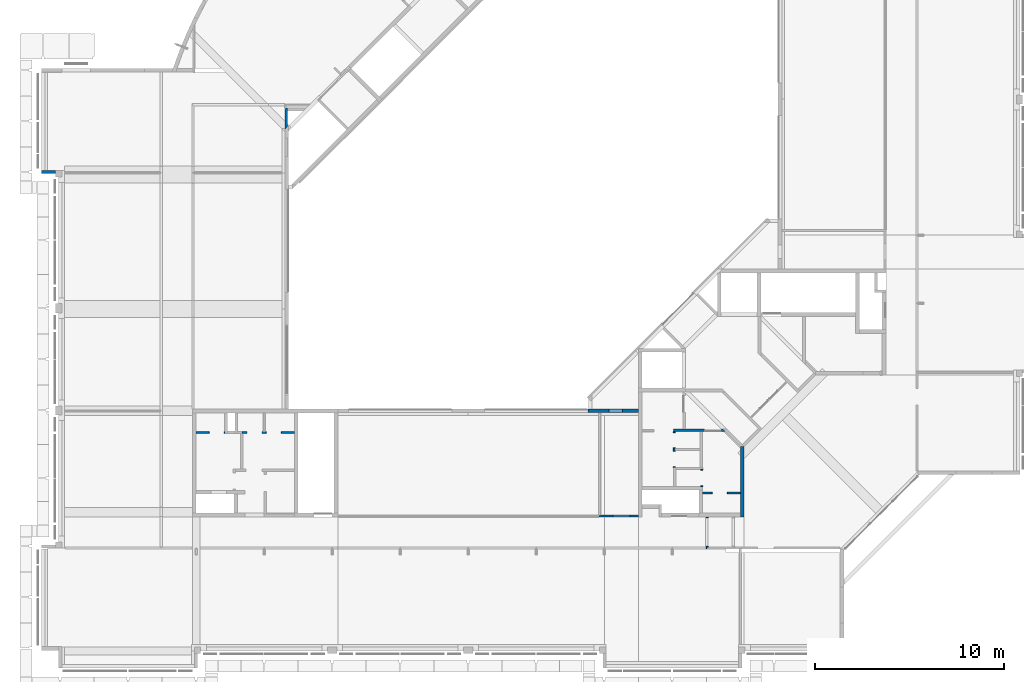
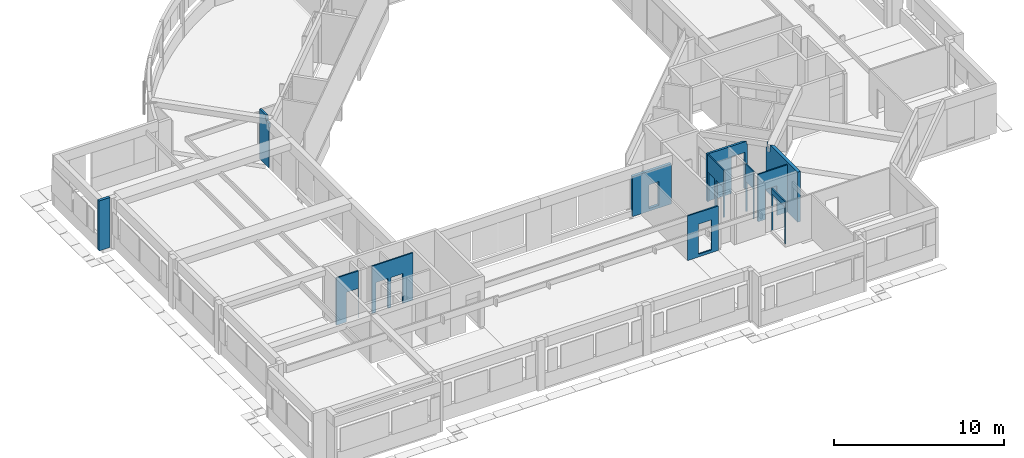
# One storey, part 21 of 26: 12 walls.
"""IFC4X3_ADD2 building model written with IfcOpenShell, lengths in millimetres."""

from ifc_helpers import new_model, si_unit, direction, frame, origin_with_axes, place, context, subcontext, project, spatial, faceted_brep, polygons, source, transform, mapped, type_object, type_shapes, element, save


model = new_model("IFC4X3_ADD2")

# Units and contexts
model_context = context("Model", 3, precision=1e-05, world=origin_with_axes(), true_north=direction((0.0, 1.0)))
body_context = subcontext(model_context, "Body", "Model", "MODEL_VIEW")
ifc_project = project(units=[si_unit("LENGTHUNIT", "METRE", prefix="MILLI"), si_unit("AREAUNIT", "SQUARE_METRE"), si_unit("VOLUMEUNIT", "CUBIC_METRE"), si_unit("PLANEANGLEUNIT", "RADIAN"), si_unit("TIMEUNIT", "SECOND"), si_unit("MASSUNIT", "GRAM")], contexts=[model_context])

# Site, building, storey
site_placement = place(None, origin_with_axes())
site = spatial("IfcSite", under=ifc_project, at=site_placement, Name="Site", CompositionType="ELEMENT")
building_placement = place(site_placement, origin_with_axes())
building = spatial("IfcBuilding", under=site, at=building_placement, Name="IFC Building Story")
storey_placement = place(building_placement, frame((0.0, 0.0, 7200.0), z_axis=(0.0, 0.0, 1.0), x_axis=(1.0, 0.0, 0.0)))
storey = spatial("IfcBuildingStorey", under=building, at=storey_placement, Name="020", Elevation=7200.0)

# Walls
wall_type_1 = type_object("IfcWallType", Name="Basic Wall_BB_10.01.41#21_Gipskartonwand_EI60_43dB_MS100 _ 25.50.25_ 100 mm43", PredefinedType="NOTDEFINED")
shared_shape_1 = source(origin_with_axes(), body_context, "Body", "Brep", [
    faceted_brep([(0.0, 37.5000000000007, 0.0), (0.0, 37.5000000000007, 3200.0), (0.0, 50.0, 3200.0), (0.0, 50.0, 0.0), (2100.0, 37.5000000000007, 3200.0), (2100.0, 50.0, 3200.0), (2100.0, 37.5000000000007, 0.0), (2100.0, 50.0, 0.0), (450.000000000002, 37.5000000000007, 2359.999999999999), (450.000000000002, 37.5000000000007, 195.0), (450.000000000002, 50.0, 195.0), (450.000000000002, 50.0, 2359.999999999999), (1340.000000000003, 37.5000000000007, 195.0), (1340.000000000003, 50.0, 195.0), (1340.000000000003, 37.5000000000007, 2359.999999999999), (1340.000000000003, 50.0, 2359.999999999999)], [[[0, 1, 2, 3]], [[1, 4, 5, 2]], [[4, 6, 7, 5]], [[6, 0, 3, 7]], [[8, 9, 10, 11]], [[9, 12, 13, 10]], [[12, 14, 15, 13]], [[14, 8, 11, 15]], [[9, 8, 14, 12], [1, 0, 6, 4]], [[15, 11, 10, 13], [7, 3, 2, 5]]], outer=[[True], [True], [True], [True], [True], [True], [True], [True], [False, True], [False, True]]),
    faceted_brep([(0.0, 24.9999999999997, 0.0), (0.0, 24.9999999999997, 3200.0), (0.0, 37.5000000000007, 3200.0), (0.0, 37.5000000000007, 0.0), (2087.50000000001, 24.9999999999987, 3200.0), (2087.50000000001, 37.4999999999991, 3200.0), (2087.50000000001, 24.9999999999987, 0.0), (2087.50000000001, 37.4999999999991, 0.0), (450.0000000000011, 24.9999999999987, 2359.999999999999), (450.0000000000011, 24.9999999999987, 195.0), (450.000000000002, 37.5000000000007, 195.0), (450.000000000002, 37.5000000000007, 2359.999999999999), (1340.000000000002, 24.9999999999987, 195.0), (1340.000000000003, 37.5000000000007, 195.0), (1340.000000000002, 24.9999999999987, 2359.999999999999), (1340.000000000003, 37.5000000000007, 2359.999999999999)], [[[0, 1, 2, 3]], [[1, 4, 5, 2]], [[4, 6, 7, 5]], [[6, 0, 3, 7]], [[8, 9, 10, 11]], [[9, 12, 13, 10]], [[12, 14, 15, 13]], [[14, 8, 11, 15]], [[9, 8, 14, 12], [1, 0, 6, 4]], [[15, 11, 10, 13], [7, 3, 2, 5]]], outer=[[True], [True], [True], [True], [True], [True], [True], [True], [False, True], [False, True]]),
    faceted_brep([(0.0, -24.9999999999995, 0.0), (0.0, -24.9999999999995, 3200.0), (0.0, 24.9999999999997, 3200.0), (0.0, 24.9999999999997, 0.0), (2075.0, -24.9999999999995, 3200.0), (2075.0, 25.0, 3200.0), (2075.0, -24.9999999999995, 0.0), (2075.0, 25.0, 0.0), (449.999999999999, -24.9999999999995, 2359.999999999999), (449.999999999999, -24.9999999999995, 195.0), (450.0000000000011, 24.9999999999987, 195.0), (450.0000000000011, 24.9999999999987, 2359.999999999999), (1340.0, -24.9999999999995, 195.0), (1340.000000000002, 24.9999999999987, 195.0), (1339.999999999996, -24.9999999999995, 2359.999999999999), (1340.000000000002, 24.9999999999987, 2359.999999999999)], [[[0, 1, 2, 3]], [[1, 4, 5, 2]], [[4, 6, 7, 5]], [[6, 0, 3, 7]], [[8, 9, 10, 11]], [[9, 12, 13, 10]], [[12, 14, 15, 13]], [[14, 8, 11, 15]], [[9, 8, 14, 12], [1, 0, 6, 4]], [[15, 11, 10, 13], [7, 3, 2, 5]]], outer=[[True], [True], [True], [True], [True], [True], [True], [True], [False, True], [False, True]]),
    faceted_brep([(0.0, -37.5000000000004, 0.0), (0.0, -37.5000000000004, 3200.0), (0.0, -24.9999999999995, 3200.0), (0.0, -24.9999999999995, 0.0), (2025.0, -37.5000000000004, 3200.0), (2025.0, -25.0, 3200.0), (2025.0, -37.5000000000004, 0.0), (2025.0, -25.0, 0.0), (450.000000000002, -37.5000000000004, 2359.999999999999), (450.000000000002, -37.5000000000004, 195.0), (449.999999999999, -24.9999999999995, 195.0), (449.999999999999, -24.9999999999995, 2359.999999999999), (1340.000000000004, -37.5000000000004, 195.0), (1340.0, -24.9999999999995, 195.0), (1340.000000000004, -37.5000000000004, 2359.999999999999), (1339.999999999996, -24.9999999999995, 2359.999999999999)], [[[0, 1, 2, 3]], [[1, 4, 5, 2]], [[4, 6, 7, 5]], [[6, 0, 3, 7]], [[8, 9, 10, 11]], [[9, 12, 13, 10]], [[12, 14, 15, 13]], [[14, 8, 11, 15]], [[9, 8, 14, 12], [1, 0, 6, 4]], [[15, 11, 10, 13], [7, 3, 2, 5]]], outer=[[True], [True], [True], [True], [True], [True], [True], [True], [False, True], [False, True]]),
    faceted_brep([(0.0, -50.0, 0.0), (0.0, -50.0, 3200.0), (0.0, -37.5000000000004, 3200.0), (0.0, -37.5000000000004, 0.0), (2012.50000000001, -50.0000000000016, 3200.0), (2012.50000000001, -37.5000000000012, 3200.0), (2012.50000000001, -50.0000000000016, 0.0), (2012.50000000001, -37.5000000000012, 0.0), (450.0000000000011, -50.0000000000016, 2359.999999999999), (450.0000000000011, -50.0000000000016, 195.0), (450.000000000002, -37.5000000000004, 195.0), (450.000000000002, -37.5000000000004, 2359.999999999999), (1340.000000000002, -50.0000000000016, 195.0), (1340.000000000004, -37.5000000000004, 195.0), (1340.000000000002, -50.0000000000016, 2359.999999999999), (1340.000000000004, -37.5000000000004, 2359.999999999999)], [[[0, 1, 2, 3]], [[1, 4, 5, 2]], [[4, 6, 7, 5]], [[6, 0, 3, 7]], [[8, 9, 10, 11]], [[9, 12, 13, 10]], [[12, 14, 15, 13]], [[14, 8, 11, 15]], [[9, 8, 14, 12], [1, 0, 6, 4]], [[15, 11, 10, 13], [7, 3, 2, 5]]], outer=[[True], [True], [True], [True], [True], [True], [True], [True], [False, True], [False, True]]),
])
type_shapes(wall_type_1, [shared_shape_1])
wall_1_placement = place(storey_placement, frame((-20100.0, 7035.13019419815, -200.0), z_axis=(0.0, 0.0, 1.0), x_axis=(-1.0, 0.0, 0.0)))
element("IfcWall", 1, at=wall_1_placement, inside=storey, type_object=wall_type_1, Name="Basic Wall:BB_10.01.41#21_Gipskartonwand_EI60_43dB_MS100 / 25.50.25, 100 mm", ObjectType="Basic Wall:BB_10.01.41#21_Gipskartonwand_EI60_43dB_MS100 / 25.50.25, 100 mm", PredefinedType="PARTITIONING", context=body_context, shape_type="MappedRepresentation", body=[
    mapped(shared_shape_1, transform((0.0, 0.0, 0.0))),
])
wall_type_2 = type_object("IfcWallType", Name="Basic Wall_BB_10.01.41#21_Gipskartonwand_EI60_43dB_MS100 _ 25.50.25_ 100 mm65", PredefinedType="NOTDEFINED")
shared_shape_2 = source(origin_with_axes(), body_context, "Body", "Tessellation", [
    polygons([(12.5000000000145, 46.2499999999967, 2650.0), (12.5000000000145, 37.5000000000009, 2650.0), (41.6666666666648, 37.5000000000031, 2650.0), (1685.0000000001, 50.0, -1.08286712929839e-12), (1685.0000000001, 37.4999999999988, -1.08286712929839e-12), (1654.99999999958, 37.4999999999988, -1.08286712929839e-12), (1654.99999999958, 50.0, -1.08286712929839e-12), (1654.99999999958, 50.0, 2650.0), (1654.99999999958, 37.4999999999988, 2650.0), (134.999999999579, 37.500000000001, 1.08286712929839e-12), (134.999999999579, 50.0, -1.08286712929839e-12), (134.999999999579, 50.0, 2650.0), (134.999999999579, 37.500000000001, 2650.0), (12.5000000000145, 50.0, -1.08286712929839e-12), (12.5000000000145, 37.5000000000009, -1.08286712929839e-12), (1685.0000000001, 50.0, 2650.0), (1685.0000000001, 50.0, 3010.0), (1685.0000000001, 37.4999999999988, 3010.0), (1685.0000000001, 37.500000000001, 2650.0), (41.6666666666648, 37.5000000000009, 3010.0), (12.5000000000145, 50.0, 2650.0), (0.0, 50.0, 2650.0), (0.0, 50.0, 3010.0)], [[[1, 2, 3]], [[4, 5, 6, 7]], [[8, 7, 6, 9]], [[10, 11, 12, 13]], [[14, 11, 10, 15]], [[16, 17, 18]], [[16, 18, 19]], [[19, 5, 4]], [[19, 4, 16]], [[9, 6, 5]], [[9, 5, 19]], [[9, 19, 18]], [[18, 20, 13]], [[18, 13, 9]], [[20, 3, 13]], [[3, 2, 15]], [[15, 10, 13]], [[15, 13, 3]], [[1, 21, 14]], [[14, 15, 2]], [[14, 2, 1]], [[22, 21, 1]], [[17, 23, 20, 18]], [[1, 3, 20]], [[1, 20, 23]], [[23, 22, 1]], [[9, 13, 12, 8]], [[21, 22, 23]], [[16, 4, 7]], [[16, 7, 8]], [[12, 11, 14]], [[12, 14, 21]], [[12, 21, 23]], [[23, 17, 8]], [[23, 8, 12]], [[17, 16, 8]]]),
    polygons([(25.0000000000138, 37.5000000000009, 2650.0), (25.0000000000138, 25.0000000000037, 2650.0), (83.3333333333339, 25.0000000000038, 2650.0), (41.6666666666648, 37.5000000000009, 2650.0), (1685.0000000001, 37.4999999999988, -1.08286712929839e-12), (1685.0000000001, 25.0000000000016, -1.08286712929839e-12), (1654.99999999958, 25.0000000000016, -1.08286712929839e-12), (1654.99999999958, 37.4999999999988, -1.08286712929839e-12), (1654.99999999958, 25.0000000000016, 2650.0), (1654.99999999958, 37.4999999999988, 2650.0), (134.999999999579, 25.0000000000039, -1.08286712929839e-12), (134.999999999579, 37.500000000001, -1.08286712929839e-12), (134.999999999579, 37.500000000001, 2650.0), (134.999999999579, 25.0000000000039, 2650.0), (25.0000000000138, 37.5000000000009, -1.08286712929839e-12), (25.0000000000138, 25.0000000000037, -1.08286712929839e-12), (1685.0000000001, 37.500000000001, 2650.0), (1685.0000000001, 37.4999999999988, 3010.0), (1685.0000000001, 25.0000000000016, 3010.0), (1685.0000000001, 25.0000000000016, 2650.0), (41.6666666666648, 37.5000000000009, 3010.0), (83.3333333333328, 25.0000000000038, 3010.0)], [[[1, 2, 3, 4]], [[5, 6, 7, 8]], [[8, 7, 9, 10]], [[11, 12, 13, 14]], [[15, 12, 11, 16]], [[17, 18, 19]], [[17, 19, 20]], [[20, 6, 5]], [[20, 5, 17]], [[17, 5, 8]], [[17, 8, 10]], [[13, 4, 21]], [[21, 18, 10]], [[21, 10, 13]], [[18, 17, 10]], [[4, 13, 12]], [[4, 12, 15]], [[15, 1, 4]], [[9, 7, 6]], [[9, 6, 20]], [[9, 20, 19]], [[19, 22, 14]], [[19, 14, 9]], [[22, 3, 14]], [[3, 2, 16]], [[3, 16, 11]], [[11, 14, 3]], [[15, 16, 2, 1]], [[9, 14, 13, 10]], [[18, 21, 22, 19]], [[21, 4, 3, 22]]]),
    polygons([(75.0000000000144, 25.0000000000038, 2650.0), (75.0000000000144, -25.0, 2650.0), (100.000000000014, -25.0, 2650.0), (100.000000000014, 19.9999999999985, 2650.0), (83.3333333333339, 25.0000000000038, 2650.0), (1685.0000000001, 25.0000000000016, -1.08286712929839e-12), (1685.0000000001, -25.0, -1.08286712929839e-12), (1654.99999999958, -25.0, -1.08286712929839e-12), (1654.99999999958, 25.0000000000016, -1.08286712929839e-12), (1654.99999999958, -25.0, 2650.0), (1654.99999999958, 25.0000000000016, 2650.0), (134.999999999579, -24.9999999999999, -1.08286712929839e-12), (134.999999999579, 25.0000000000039, -1.08286712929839e-12), (134.999999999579, 25.0000000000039, 2650.0), (134.999999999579, -24.9999999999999, 2650.0), (75.0000000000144, 25.0000000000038, -1.08286712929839e-12), (75.0000000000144, -25.0, -1.08286712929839e-12), (1685.0000000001, 25.0000000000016, 2650.0), (1685.0000000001, 25.0000000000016, 3010.0), (1685.0000000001, -25.0, 3010.0), (1685.0000000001, -25.0, 2650.0), (83.3333333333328, 25.0000000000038, 3010.0), (100.000000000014, -25.0, 3010.0), (100.000000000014, 19.9999999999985, 3010.0)], [[[1, 2, 3]], [[1, 3, 4]], [[1, 4, 5]], [[6, 7, 8, 9]], [[9, 8, 10, 11]], [[12, 13, 14, 15]], [[16, 13, 12, 17]], [[18, 19, 20]], [[18, 20, 21]], [[21, 7, 6]], [[21, 6, 18]], [[18, 6, 9]], [[18, 9, 11]], [[14, 5, 22]], [[22, 19, 11]], [[22, 11, 14]], [[19, 18, 11]], [[5, 14, 13]], [[5, 13, 16]], [[16, 1, 5]], [[10, 8, 7]], [[10, 7, 21]], [[10, 21, 20]], [[20, 23, 15]], [[20, 15, 10]], [[23, 3, 15]], [[3, 2, 17]], [[17, 12, 15]], [[17, 15, 3]], [[16, 17, 2, 1]], [[10, 15, 14, 11]], [[23, 24, 4, 3]], [[24, 23, 20]], [[24, 20, 19]], [[19, 22, 24]], [[22, 5, 4, 24]]]),
    polygons([(87.5000000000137, -25.0, 2650.0), (87.5000000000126, -37.4999999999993, 2650.0), (100.000000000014, -37.4999999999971, 2650.0), (100.000000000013, -25.0, 2650.0), (1685.0000000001, -25.0, -1.08286712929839e-12), (1685.0000000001, -37.5000000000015, -1.08286712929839e-12), (1654.99999999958, -37.5000000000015, -1.08286712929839e-12), (1654.99999999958, -25.0, -1.08286712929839e-12), (1654.99999999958, -37.5000000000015, 2650.0), (1654.99999999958, -25.0, 2650.0), (134.999999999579, -37.4999999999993, -1.08286712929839e-12), (134.999999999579, -24.9999999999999, -1.08286712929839e-12), (134.999999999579, -24.9999999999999, 2650.0), (134.999999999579, -37.4999999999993, 2650.0), (87.5000000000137, -25.0, -1.08286712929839e-12), (87.5000000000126, -37.4999999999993, -1.08286712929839e-12), (1685.0000000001, -25.0, 2650.0), (1685.0000000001, -25.0, 3010.0), (1685.0000000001, -37.5000000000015, 3010.0), (1685.0000000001, -37.4999999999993, 2650.0), (100.000000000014, -25.0, 3010.0), (100.000000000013, -37.4999999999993, 3010.0)], [[[1, 2, 3, 4]], [[5, 6, 7, 8]], [[8, 7, 9, 10]], [[11, 12, 13, 14]], [[15, 12, 11, 16]], [[17, 18, 19]], [[17, 19, 20]], [[20, 6, 5]], [[20, 5, 17]], [[17, 5, 8]], [[17, 8, 10]], [[13, 4, 21]], [[21, 18, 10]], [[21, 10, 13]], [[18, 17, 10]], [[4, 13, 12]], [[4, 12, 15]], [[15, 1, 4]], [[9, 7, 6]], [[9, 6, 20]], [[9, 20, 19]], [[19, 22, 14]], [[19, 14, 9]], [[22, 3, 14]], [[3, 2, 16]], [[16, 11, 14]], [[16, 14, 3]], [[15, 16, 2, 1]], [[9, 14, 13, 10]], [[21, 4, 3, 22]], [[18, 21, 22, 19]]]),
    polygons([(134.999999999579, -37.4999999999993, 2650.0), (134.999999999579, -37.4999999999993, -1.08286712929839e-12), (100.000000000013, -37.4999999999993, -1.08286712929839e-12), (100.000000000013, -37.4999999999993, 2650.0), (100.000000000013, -37.4999999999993, 3010.0), (1685.0000000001, -37.5000000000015, 3010.0), (1685.0000000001, -37.4999999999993, 2650.0), (1685.0000000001, -37.5000000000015, -1.08286712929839e-12), (1654.99999999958, -37.5000000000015, -1.08286712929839e-12), (1654.99999999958, -37.5000000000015, 2650.0), (1685.0000000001, -49.9999999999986, -1.08286712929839e-12), (1654.99999999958, -49.9999999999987, -1.08286712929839e-12), (1654.99999999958, -49.9999999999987, 2650.0), (134.999999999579, -49.9999999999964, 2650.0), (134.999999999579, -49.9999999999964, -1.08286712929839e-12), (100.000000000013, -49.9999999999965, -1.08286712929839e-12), (100.000000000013, -49.9999999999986, 2650.0), (100.000000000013, -49.9999999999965, 3010.0), (1685.0000000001, -49.9999999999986, 3010.0), (1685.0000000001, -49.9999999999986, 2650.0)], [[[1, 2, 3]], [[1, 3, 4]], [[7, 8, 9]], [[7, 9, 10]], [[1, 4, 5]], [[5, 6, 10]], [[5, 10, 1]], [[6, 7, 10]], [[9, 8, 11, 12]], [[10, 9, 12, 13]], [[2, 1, 14, 15]], [[3, 2, 15, 16]], [[4, 3, 16]], [[4, 16, 17]], [[17, 18, 5]], [[17, 5, 4]], [[7, 6, 19]], [[7, 19, 20]], [[20, 11, 8]], [[20, 8, 7]], [[17, 16, 15]], [[17, 15, 14]], [[13, 12, 11]], [[13, 11, 20]], [[13, 20, 19]], [[19, 18, 14]], [[19, 14, 13]], [[18, 17, 14]], [[1, 10, 13, 14]], [[6, 5, 18, 19]]]),
])
type_shapes(wall_type_2, [shared_shape_2])
wall_2_placement = place(storey_placement, frame((-16450.0, 5300.0, -10.0), z_axis=(0.0, 0.0, 1.0), x_axis=(0.0, 1.0, 0.0)))
element("IfcWall", 2, at=wall_2_placement, inside=storey, type_object=wall_type_2, Name="Basic Wall:BB_10.01.41#21_Gipskartonwand_EI60_43dB_MS100 / 25.50.25, 100 mm", ObjectType="Basic Wall:BB_10.01.41#21_Gipskartonwand_EI60_43dB_MS100 / 25.50.25, 100 mm", PredefinedType="PARTITIONING", context=body_context, shape_type="MappedRepresentation", body=[
    mapped(shared_shape_2, transform((0.0, 0.0, 0.0))),
])
wall_3_placement = place(storey_placement, frame((0.0, 0.0, -7200.0), z_axis=(0.0, 0.0, 1.0), x_axis=(1.0, 0.0, 0.0)))
element("IfcWall", 3, at=wall_3_placement, inside=storey, Name="Basic Wall:BB_XX_Wand uit beton, 170 mm", ObjectType="Basic Wall:BB_XX_Wand uit beton, 170 mm", PredefinedType="SOLIDWALL", context=body_context, shape_type="Tessellation", body=[
    polygons([(-50945.0, 25325.0, 6999.999999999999), (-51695.00000000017, 25325.0, 6999.999999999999), (-51695.00000000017, 25325.0, 10600.0), (-51365.00000000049, 25325.0, 10600.0), (-50945.0, 25325.0, 10600.0), (-50945.0, 25155.0, 6999.999999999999), (-50945.0, 25155.0, 10600.0), (-51365.00000000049, 25155.0, 10600.0), (-51695.00000000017, 25155.0, 10600.0), (-51695.00000000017, 25155.0, 6999.999999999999)], [[[4, 5, 1]], [[4, 1, 2]], [[2, 3, 4]], [[8, 9, 10]], [[10, 6, 7]], [[10, 7, 8]], [[2, 1, 6, 10]], [[3, 2, 10, 9]], [[1, 5, 7, 6]], [[4, 3, 9, 8]], [[5, 4, 8, 7]]]),
])
wall_4_placement = place(storey_placement, frame((0.0, 0.0, -7200.0), z_axis=(0.0, 0.0, 1.0), x_axis=(1.0, 0.0, 0.0)))
element("IfcWall", 4, at=wall_4_placement, inside=storey, Name="Basic Wall:BB_XX_Wand uit metselwerk, 140 mm", ObjectType="Basic Wall:BB_XX_Wand uit metselwerk, 140 mm", PredefinedType="SOLIDWALL", context=body_context, shape_type="Tessellation", body=[
    polygons([(-38655.0, 28624.00000000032, 6999.999999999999), (-38655.0, 28624.00000000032, 10600.0), (-38655.0, 28484.00000000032, 10600.0), (-38655.0, 27797.81751435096, 10600.0), (-38655.0, 27797.81751435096, 10200.0), (-38655.0, 27550.00000000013, 10200.0), (-38655.0, 27550.00000000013, 9880.0), (-38655.0, 27640.83694395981, 9880.0), (-38655.0, 27640.8369439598, 6999.999999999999), (-38655.0, 28484.00000000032, 7000.0), (-38795.0, 28624.00000000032, 10600.0), (-38795.0, 28624.00000000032, 6999.999999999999), (-38795.0, 27500.8369439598, 6999.999999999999), (-38795.0, 27500.8369439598, 9880.0), (-38795.0, 27550.00000000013, 9880.0), (-38795.0, 27550.00000000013, 10200.0), (-38795.0, 27937.81751435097, 10200.0), (-38795.0, 27937.81751435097, 10600.0), (-38745.83694395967, 27550.00000000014, 9880.0)], [[[5, 6, 7]], [[8, 9, 10]], [[8, 10, 3]], [[8, 3, 5]], [[5, 7, 8]], [[3, 4, 5]], [[10, 1, 2]], [[10, 2, 3]], [[17, 18, 11]], [[11, 15, 17]], [[15, 16, 17]], [[11, 12, 13]], [[11, 13, 15]], [[13, 14, 15]], [[10, 9, 13]], [[10, 13, 12]], [[12, 1, 10]], [[3, 2, 11]], [[11, 18, 4]], [[11, 4, 3]], [[2, 1, 12, 11]], [[5, 17, 16, 6]], [[17, 5, 4, 18]], [[8, 7, 19]], [[19, 14, 13]], [[13, 9, 8]], [[13, 8, 19]], [[19, 7, 6]], [[19, 6, 16]], [[16, 15, 19]], [[19, 15, 14]]]),
])
wall_5_placement = place(storey_placement, frame((0.0, 0.0, -7200.0), z_axis=(0.0, 0.0, 1.0), x_axis=(1.0, 0.0, 0.0)))
element("IfcWall", 5, at=wall_5_placement, inside=storey, Name="Basic Wall:BB_XX_Wand uit metselwerk, 140 mm", ObjectType="Basic Wall:BB_XX_Wand uit metselwerk, 140 mm", PredefinedType="SOLIDWALL", context=body_context, shape_type="Tessellation", body=[
    polygons([(-18240.0, 11510.0, 10520.0), (-18240.0, 11510.0, 7120.0), (-18150.0, 11510.0, 7120.0), (-16840.00000000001, 11510.0, 7120.0), (-16700.00000000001, 11510.0, 7120.0), (-16602.0, 11510.0, 7120.0), (-16602.0, 11510.0, 9750.000000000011), (-15692.00000000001, 11510.0, 9750.000000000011), (-15692.00000000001, 11510.0, 7120.0), (-15492.98989873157, 11510.0, 7120.0), (-15492.98989873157, 11510.0, 10320.0), (-15577.84271247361, 11510.0, 10320.0), (-15577.84271247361, 11510.0, 10520.0), (-16700.00000000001, 11510.0, 10520.0), (-16840.00000000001, 11510.0, 10520.0), (-18150.0, 11510.0, 10520.0), (-18240.0, 11650.0, 7120.0), (-18240.0, 11650.0, 10520.0), (-17739.99999999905, 11650.0, 10520.0), (-17599.99999999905, 11650.0, 10520.0), (-15717.84271247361, 11650.0, 10520.0), (-15717.84271247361, 11650.0, 10320.0), (-15632.98989873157, 11650.0, 10320.0), (-15632.98989873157, 11650.0, 7120.0), (-15692.00000000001, 11650.0, 7120.0), (-15692.00000000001, 11650.0, 9750.000000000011), (-16602.0, 11650.0, 9750.000000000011), (-16602.0, 11650.0, 7120.0), (-17599.99999999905, 11650.0, 7120.0), (-17739.99999999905, 11650.0, 7120.0)], [[[8, 9, 10]], [[8, 10, 11]], [[8, 11, 12]], [[12, 13, 14]], [[12, 14, 7]], [[12, 7, 8]], [[14, 5, 6]], [[14, 6, 7]], [[14, 15, 4]], [[14, 4, 5]], [[15, 16, 3]], [[15, 3, 4]], [[16, 1, 2]], [[16, 2, 3]], [[26, 22, 23]], [[23, 24, 25]], [[23, 25, 26]], [[27, 28, 29]], [[27, 29, 20]], [[20, 21, 27]], [[22, 26, 27]], [[27, 21, 22]], [[29, 30, 19]], [[29, 19, 20]], [[30, 17, 18]], [[30, 18, 19]], [[4, 3, 29]], [[4, 29, 28]], [[28, 5, 4]], [[28, 6, 5]], [[3, 30, 29]], [[3, 2, 17]], [[3, 17, 30]], [[14, 13, 21]], [[14, 21, 20]], [[20, 15, 14]], [[19, 18, 16]], [[16, 15, 20]], [[16, 20, 19]], [[18, 1, 16]], [[2, 1, 18, 17]], [[12, 22, 21, 13]], [[22, 12, 11, 23]], [[10, 24, 23, 11]], [[26, 8, 7, 27]], [[27, 7, 6, 28]], [[8, 26, 25, 9]], [[24, 10, 9, 25]]]),
])
wall_6_placement = place(storey_placement, frame((0.0, 0.0, -7200.0), z_axis=(0.0, 0.0, 1.0), x_axis=(1.0, 0.0, 0.0)))
element("IfcWall", 6, at=wall_6_placement, inside=storey, Name="Basic Wall:BB_XX_Wand uit beton, 200 mm", ObjectType="Basic Wall:BB_XX_Wand uit beton, 200 mm", PredefinedType="SOLIDWALL", context=body_context, shape_type="Tessellation", body=[
    polygons([(-14700.0, 10715.0, 7119.999999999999), (-14700.0, 7199.99999999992, 7119.999999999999), (-14700.0, 6999.99999999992, 7119.999999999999), (-14700.0, 6999.99999999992, 10720.0), (-14700.0, 7199.99999999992, 10720.0), (-14700.0, 10249.58863126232, 10720.0), (-14700.0, 10249.58863126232, 10200.0), (-14700.0, 10514.99999999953, 10200.0), (-14700.0, 10514.99999999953, 10720.0), (-14700.0, 10632.15728752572, 10720.0), (-14700.0, 10632.15728752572, 10320.0), (-14700.0, 10715.0, 10320.0), (-14500.0, 6999.99999999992, 7119.999999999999), (-14500.0, 10715.0, 7119.999999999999), (-14499.99999999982, 10714.99999999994, 10200.0), (-14500.0, 10078.60389693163, 10200.0), (-14500.0, 10078.60389693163, 10720.0), (-14500.0, 6999.99999999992, 10720.0), (-14697.98989873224, 10715.0, 7119.999999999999), (-14514.50763283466, 10064.09626409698, 10720.0), (-14697.98989873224, 10715.0, 10320.0), (-14499.99999999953, 10715.0, 10320.0), (-14514.50763283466, 10064.09626409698, 10200.0), (-14641.42135623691, 10573.57864376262, 10320.0), (-14641.42135623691, 10573.57864376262, 10720.0)], [[[2, 3, 4]], [[2, 4, 5]], [[11, 12, 8]], [[8, 9, 10]], [[8, 10, 11]], [[8, 12, 1]], [[1, 7, 8]], [[7, 1, 2]], [[7, 2, 5]], [[5, 6, 7]], [[16, 17, 18]], [[16, 18, 13]], [[16, 13, 14]], [[14, 15, 16]], [[19, 14, 13]], [[19, 13, 2]], [[2, 1, 19]], [[13, 3, 2]], [[5, 4, 18]], [[20, 6, 5]], [[20, 5, 18]], [[18, 17, 20]], [[19, 1, 12]], [[19, 12, 21]], [[15, 14, 19]], [[15, 19, 21]], [[21, 22, 15]], [[20, 23, 7, 6]], [[23, 20, 17, 16]], [[7, 23, 16]], [[7, 16, 15]], [[7, 15, 8]], [[24, 25, 9]], [[24, 9, 8]], [[8, 15, 22]], [[8, 22, 24]], [[24, 11, 10, 25]], [[21, 12, 11]], [[11, 24, 22]], [[11, 22, 21]], [[4, 3, 13, 18]], [[10, 9, 25]]]),
])
wall_7_placement = place(storey_placement, frame((0.0, 0.0, -7200.0), z_axis=(0.0, 0.0, 1.0), x_axis=(1.0, 0.0, 0.0)))
element("IfcWall", 7, at=wall_7_placement, inside=storey, Name="Basic Wall:BB_XX_Wand uit beton, 190 mm", ObjectType="Basic Wall:BB_XX_Wand uit beton, 190 mm", PredefinedType="SOLIDWALL", context=body_context, shape_type="Tessellation", body=[
    polygons([(-22755.0, 12505.004065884, 6999.999999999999), (-20099.99999999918, 12505.004065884, 6999.999999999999), (-20099.99999999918, 12505.004065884, 9880.0), (-22755.0, 12505.004065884, 9880.0), (-21639.99999999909, 12505.004065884, 8900.0), (-20939.99999999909, 12505.004065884, 8900.0), (-20939.99999999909, 12505.004065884, 7195.0), (-21639.99999999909, 12505.004065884, 7195.0), (-22755.0, 12695.004065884, 6999.999999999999), (-22755.0, 12695.004065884, 9880.0), (-20099.99999999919, 12695.004065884, 9880.0), (-20099.99999999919, 12695.004065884, 6999.999999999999), (-21639.99999999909, 12695.004065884, 8900.0), (-21639.99999999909, 12695.004065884, 7195.0), (-20939.99999999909, 12695.004065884, 7195.0), (-20939.99999999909, 12695.004065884, 8900.0)], [[[8, 5, 4]], [[8, 4, 1]], [[1, 2, 7]], [[1, 7, 8]], [[2, 3, 6]], [[2, 6, 7]], [[3, 4, 5]], [[3, 5, 6]], [[16, 13, 10]], [[16, 10, 11]], [[11, 12, 15]], [[11, 15, 16]], [[12, 9, 14]], [[12, 14, 15]], [[9, 10, 13]], [[9, 13, 14]], [[2, 1, 9, 12]], [[3, 2, 12, 11]], [[4, 3, 11, 10]], [[1, 4, 10, 9]], [[6, 5, 13, 16]], [[7, 6, 16, 15]], [[8, 7, 15, 14]], [[5, 8, 14, 13]]]),
])
wall_8_placement = place(storey_placement, frame((0.0, 0.0, -7200.0), z_axis=(0.0, 0.0, 1.0), x_axis=(1.0, 0.0, 0.0)))
element("IfcWall", 8, at=wall_8_placement, inside=storey, Name="Basic Wall:BB_XX_Wand uit metselwerk, 90 mm", ObjectType="Basic Wall:BB_XX_Wand uit metselwerk, 90 mm", PredefinedType="SOLIDWALL", context=body_context, shape_type="Tessellation", body=[
    polygons([(-41989.99999999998, 11410.004065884, 10520.0), (-43500.0, 11410.004065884, 10520.0), (-43500.0, 11410.004065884, 7120.0), (-42808.00000000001, 11410.004065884, 7120.0), (-42808.00000000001, 11410.004065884, 9260.0), (-42002.00000000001, 11410.004065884, 9260.0), (-42002.00000000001, 11410.004065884, 7120.0), (-41989.99999999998, 11410.004065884, 7120.0), (-43500.00000000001, 11500.004065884, 10520.0), (-41989.99999999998, 11500.004065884, 10520.0), (-41989.99999999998, 11500.004065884, 7120.0), (-42002.00000000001, 11500.004065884, 7120.0), (-42002.00000000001, 11500.004065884, 9260.0), (-42808.00000000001, 11500.004065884, 9260.000000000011), (-42808.00000000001, 11500.004065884, 7120.0), (-43500.00000000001, 11500.004065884, 7120.0)], [[[6, 7, 8]], [[8, 1, 6]], [[1, 2, 5]], [[1, 5, 6]], [[2, 3, 4]], [[2, 4, 5]], [[14, 15, 16]], [[14, 16, 9]], [[9, 10, 13]], [[9, 13, 14]], [[13, 10, 11]], [[11, 12, 13]], [[3, 16, 15, 4]], [[2, 1, 10, 9]], [[3, 2, 9, 16]], [[1, 8, 11, 10]], [[6, 13, 12, 7]], [[14, 5, 4, 15]], [[13, 6, 5, 14]], [[11, 8, 7, 12]]]),
])
wall_9_placement = place(storey_placement, frame((0.0, 0.0, -7200.0), z_axis=(0.0, 0.0, 1.0), x_axis=(1.0, 0.0, 0.0)))
element("IfcWall", 9, at=wall_9_placement, inside=storey, Name="Basic Wall:BB_XX_Wand uit metselwerk, 90 mm", ObjectType="Basic Wall:BB_XX_Wand uit metselwerk, 90 mm", PredefinedType="SOLIDWALL", context=body_context, shape_type="Tessellation", body=[
    polygons([(-16790.0, 8600.0, 7120.0), (-16790.0, 8600.0, 10520.0), (-16790.0, 9510.0, 10520.0), (-16790.0, 9510.0, 7120.0), (-16790.0, 9457.999999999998, 7120.0), (-16790.0, 9457.999999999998, 9260.000000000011), (-16790.0, 8651.999999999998, 9260.000000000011), (-16790.0, 8651.999999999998, 7120.0), (-16700.0, 8600.0, 10520.0), (-16700.0, 8600.0, 7120.0), (-16700.0, 8651.999999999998, 7120.0), (-16700.0, 8651.999999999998, 9260.0), (-16700.0, 9457.999999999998, 9260.0), (-16700.0, 9457.999999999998, 7120.0), (-16700.0, 9510.0, 7120.0), (-16700.0, 9510.0, 10520.0)], [[[7, 8, 1]], [[1, 2, 7]], [[2, 3, 6]], [[2, 6, 7]], [[6, 3, 4]], [[4, 5, 6]], [[13, 14, 15]], [[15, 16, 13]], [[16, 9, 12]], [[16, 12, 13]], [[12, 9, 10]], [[10, 11, 12]], [[4, 15, 14, 5]], [[2, 1, 10, 9]], [[3, 2, 9, 16]], [[4, 3, 16, 15]], [[7, 12, 11, 8]], [[13, 6, 5, 14]], [[12, 7, 6, 13]], [[10, 1, 8, 11]]]),
])
wall_10_placement = place(storey_placement, frame((0.0, 0.0, -7200.0), z_axis=(0.0, 0.0, 1.0), x_axis=(1.0, 0.0, 0.0)))
element("IfcWall", 10, at=wall_10_placement, inside=storey, Name="Basic Wall:BB_XX_Wand uit metselwerk, 90 mm", ObjectType="Basic Wall:BB_XX_Wand uit metselwerk, 90 mm", PredefinedType="SOLIDWALL", context=body_context, shape_type="Tessellation", body=[
    polygons([(-14699.99999999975, 8209.999999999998, 7120.0), (-14699.99999999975, 8209.999999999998, 10520.0), (-16700.1157781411, 8210.0, 10520.0), (-16700.1157781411, 8210.0, 7120.0), (-16197.99999999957, 8210.0, 7120.0), (-16197.99999999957, 8210.0, 9260.0), (-15391.99999999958, 8210.0, 9260.0), (-15391.99999999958, 8210.0, 7120.0), (-14699.99999999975, 8300.0, 10520.0), (-14699.99999999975, 8300.0, 7120.0), (-15391.99999999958, 8300.0, 7120.0), (-15391.99999999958, 8300.0, 9260.0), (-16197.99999999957, 8299.999999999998, 9260.000000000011), (-16197.99999999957, 8299.999999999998, 7120.0), (-16700.1157781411, 8300.0, 7120.0), (-16700.1157781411, 8300.0, 10520.0)], [[[7, 8, 1]], [[7, 1, 2]], [[2, 3, 6]], [[2, 6, 7]], [[3, 4, 5]], [[3, 5, 6]], [[13, 14, 15]], [[13, 15, 16]], [[16, 9, 12]], [[16, 12, 13]], [[9, 10, 11]], [[9, 11, 12]], [[4, 15, 14, 5]], [[2, 1, 10, 9]], [[3, 2, 9, 16]], [[4, 3, 16, 15]], [[13, 6, 5, 14]], [[7, 12, 11, 8]], [[6, 13, 12, 7]], [[10, 1, 8, 11]]]),
])
wall_11_placement = place(storey_placement, frame((0.0, 0.0, -7200.0), z_axis=(0.0, 0.0, 1.0), x_axis=(1.0, 0.0, 0.0)))
element("IfcWall", 11, at=wall_11_placement, inside=storey, Name="Basic Wall:BB_XX_Wand uit metselwerk, 90 mm", ObjectType="Basic Wall:BB_XX_Wand uit metselwerk, 90 mm", PredefinedType="SOLIDWALL", context=body_context, shape_type="Tessellation", body=[
    polygons([(-18150.0, 11510.0, 7120.0), (-18150.0, 11510.0, 10520.0), (-18150.0, 9599.999999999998, 10520.0), (-18150.0, 9599.999999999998, 7120.0), (-18150.0, 9652.000000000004, 7120.0), (-18150.0, 9652.000000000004, 9260.0), (-18150.0, 10458.0, 9260.000000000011), (-18150.0, 10458.0, 7120.0), (-18150.0, 10652.00000000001, 7120.0), (-18150.0, 10652.00000000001, 9260.0), (-18150.0, 11458.0, 9260.000000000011), (-18150.0, 11458.0, 7120.0), (-18240.0, 11510.0, 10520.0), (-18240.0, 11510.0, 7120.0), (-18240.0, 11458.0, 7120.0), (-18240.0, 11458.0, 9260.0), (-18240.0, 10652.00000000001, 9260.0), (-18240.0, 10652.00000000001, 7120.0), (-18240.0, 10458.0, 7120.0), (-18240.0, 10458.0, 9260.0), (-18240.0, 9652.000000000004, 9260.0), (-18240.0, 9652.000000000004, 7120.0), (-18240.0, 9599.999999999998, 7120.0), (-18240.0, 9599.999999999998, 10520.0)], [[[11, 12, 1]], [[1, 2, 11]], [[2, 10, 11]], [[2, 7, 10]], [[7, 8, 9]], [[7, 9, 10]], [[2, 3, 7]], [[3, 6, 7]], [[6, 3, 4]], [[4, 5, 6]], [[21, 22, 23]], [[23, 24, 21]], [[24, 20, 21]], [[24, 17, 20]], [[17, 18, 19]], [[17, 19, 20]], [[24, 13, 17]], [[13, 16, 17]], [[16, 13, 14]], [[14, 15, 16]], [[4, 23, 22, 5]], [[2, 1, 14, 13]], [[3, 2, 13, 24]], [[4, 3, 24, 23]], [[11, 16, 15, 12]], [[17, 10, 9, 18]], [[16, 11, 10, 17]], [[7, 20, 19, 8]], [[21, 6, 5, 22]], [[20, 7, 6, 21]], [[18, 9, 8, 19]], [[14, 1, 12, 15]]]),
])
wall_12_placement = place(storey_placement, frame((0.0, 0.0, -7200.0), z_axis=(0.0, 0.0, 1.0), x_axis=(1.0, 0.0, 0.0)))
element("IfcWall", 12, at=wall_12_placement, inside=storey, Name="Basic Wall:BB_XX_Wand uit metselwerk, 90 mm", ObjectType="Basic Wall:BB_XX_Wand uit metselwerk, 90 mm", PredefinedType="SOLIDWALL", context=body_context, shape_type="Tessellation", body=[
    polygons([(-38990.00000000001, 11410.004065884, 9260.0), (-38990.00000000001, 11410.004065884, 7120.000000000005), (-38300.00000000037, 11410.004065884, 7120.0), (-38300.00000000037, 11410.004065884, 10520.0), (-41080.0, 11410.004065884, 10520.0), (-41080.0, 11410.004065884, 7120.0), (-40808.00000000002, 11410.004065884, 7120.000000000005), (-40808.00000000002, 11410.004065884, 9260.0), (-40002.00000000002, 11410.004065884, 9260.0), (-40002.00000000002, 11410.004065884, 7120.000000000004), (-39796.0, 11410.004065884, 7120.000000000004), (-39796.0, 11410.004065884, 9260.0), (-38300.00000000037, 11500.004065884, 7120.0), (-38990.00000000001, 11500.004065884, 7120.000000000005), (-38990.00000000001, 11500.004065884, 9260.0), (-39796.0, 11500.004065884, 9260.0), (-39796.0, 11500.004065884, 7120.000000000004), (-40002.00000000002, 11500.004065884, 7120.000000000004), (-40002.00000000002, 11500.004065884, 9260.0), (-40808.00000000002, 11500.004065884, 9260.0), (-40808.00000000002, 11500.004065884, 7120.000000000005), (-41080.00000000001, 11500.004065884, 7120.0), (-41080.00000000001, 11500.004065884, 10520.0), (-38300.00000000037, 11500.004065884, 10520.0)], [[[1, 2, 3]], [[1, 3, 4]], [[12, 1, 4]], [[4, 9, 12]], [[9, 10, 11]], [[9, 11, 12]], [[4, 5, 9]], [[5, 8, 9]], [[5, 6, 7]], [[5, 7, 8]], [[20, 21, 22]], [[20, 22, 23]], [[23, 19, 20]], [[23, 16, 19]], [[16, 17, 18]], [[16, 18, 19]], [[23, 24, 15]], [[23, 15, 16]], [[24, 13, 14]], [[24, 14, 15]], [[11, 10, 18, 17]], [[4, 3, 13, 24]], [[5, 4, 24, 23]], [[6, 5, 23, 22]], [[9, 8, 20, 19]], [[8, 7, 21, 20]], [[10, 9, 19, 18]], [[16, 15, 1, 12]], [[15, 14, 2, 1]], [[17, 16, 12, 11]], [[3, 2, 14, 13]], [[22, 21, 7, 6]]]),
])

save(model, "model.ifc")
